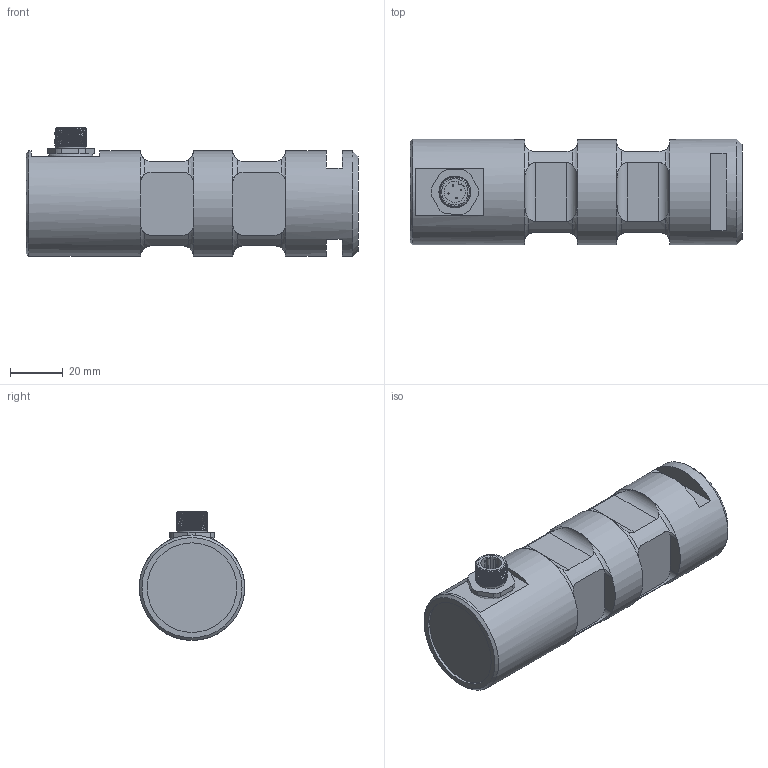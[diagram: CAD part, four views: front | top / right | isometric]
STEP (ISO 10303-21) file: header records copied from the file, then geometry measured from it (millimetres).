
FILE_DESCRIPTION(/* description */ ('Alibre Inc.'),/* implementation_level */ '2;1');
FILE_NAME(/* name */ 'export0',/* time_stamp */ '2015-09-20T08:17:53+02:00',/* author */ (''),/* organization */ (''),/* preprocessor_version */ 'ST-DEVELOPER v14',/* originating_system */ 'Alibre',/* authorisation */ '');
FILE_SCHEMA (('CONFIG_CONTROL_DESIGN'));
Length unit declared in the file: centimetre
Products named in the file (6): ID_1; ID_2; ID_3; ID_4
Bounding box: 126 x 40 x 48.86 mm (x, y, z)
Volume: 141305.8 mm3; surface area: 23573.1 mm2
Topology: 8 solids, 8 shells, 195 faces, 444 edges, 273 vertices
Faces by surface type: plane 78, cylinder 71, bspline 23, torus 17, cone 6
Full cylindrical faces by diameter (mm): 0.5 x8, 8 x2, 10 x4, 11.5 x1, 13 x1, 14.376 x1, 34 x1, 40 x3
Entity records: 19241 total; most frequent: CARTESIAN_POINT 15132, ORIENTED_EDGE 818, DIRECTION 506, EDGE_CURVE 404, VERTEX_POINT 263, FACE_BOUND 240, EDGE_LOOP 239, AXIS2_PLACEMENT_3D 223
